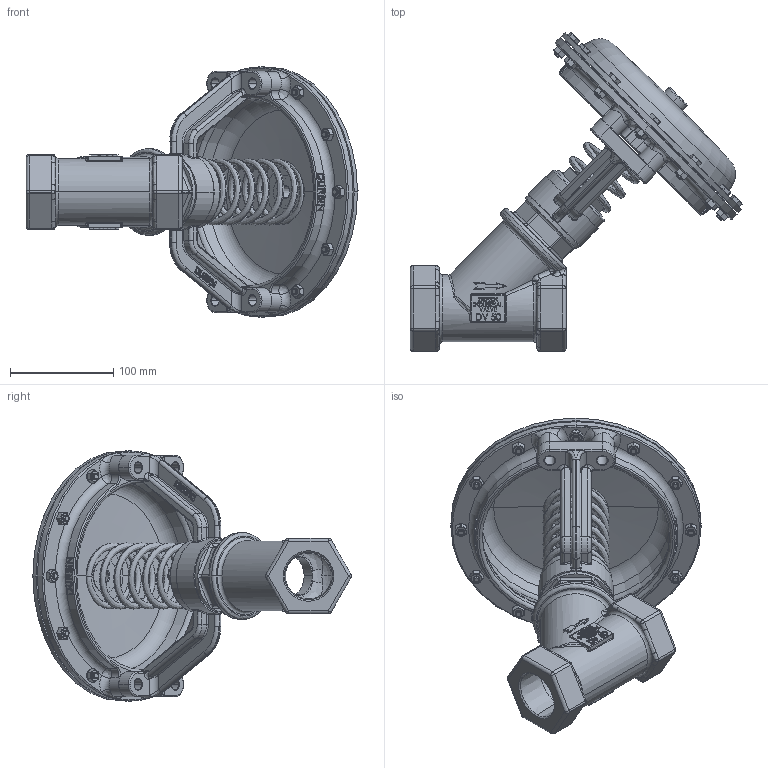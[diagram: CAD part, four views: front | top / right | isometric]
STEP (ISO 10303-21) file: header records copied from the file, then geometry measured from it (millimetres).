
FILE_DESCRIPTION (( 'STEP AP203' ), '1' );
FILE_NAME ('1.50 2W S TOP 2 NO NPT DV-STEP.STEP', '2018-11-07T18:09:20', ( '' ), ( '' ), 'SwSTEP 2.0', 'SolidWorks 2012', '' );
FILE_SCHEMA (( 'CONFIG_CONTROL_DESIGN' ));
Length unit declared in the file: inch
Products named in the file (13): 1.50 2W S TOP 2 NO NPT DV-STEP; D293-300DR; H060-03; H096-10; C293-030DR; D771; C293-030DM; C893-022D-SS; DV531-SS; DV58-SS; C383-029D; DV59-SS; DV534-SS
Assembly tree (34 placements, depth 3):
  1.50 2W S TOP 2 NO NPT DV-STEP
    DV534-SS
    DV59-SS
    C383-029D
    DV58-SS
    DV531-SS
    C893-022D-SS
    C293-030DR
      C293-030DM
      D771
    H096-10  x12
    H060-03  x12
    D293-300DR
Bounding box: 320.96 x 308.53 x 241.81 mm (x, y, z)
Volume: 1276191.3 mm3; surface area: 411095.4 mm2
Topology: 33 solids, 33 shells, 3708 faces, 8754 edges, 5180 vertices
Faces by surface type: plane 1176, bspline 767, cylinder 707, cone 452, sphere 332, torus 274
Entity records: 120811 total; most frequent: CARTESIAN_POINT 62397, ORIENTED_EDGE 12626, DIRECTION 10358, EDGE_CURVE 6313, VERTEX_POINT 3966, AXIS2_PLACEMENT_3D 3821, EDGE_LOOP 2755, LINE 2716
